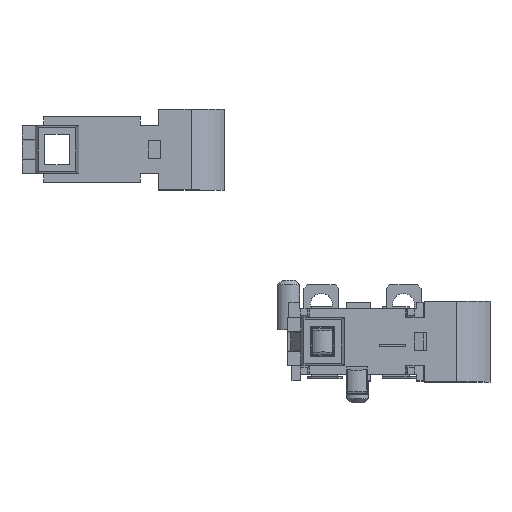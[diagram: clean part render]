
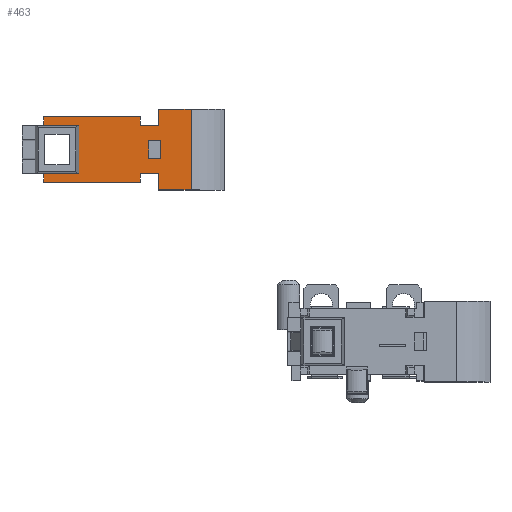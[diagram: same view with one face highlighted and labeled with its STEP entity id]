
A CAD part, top view. The second image highlights one B-rep face of the part: STEP entity #463.
In plain terms, the highlighted planar face has unit normal (0, 0, 1).
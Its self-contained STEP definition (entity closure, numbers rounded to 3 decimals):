
#463 = ADVANCED_FACE( '', ( #1064, #1065 ), #1066, .T. );
#1064 = FACE_BOUND( '', #1809, .T. );
#1065 = FACE_OUTER_BOUND( '', #1810, .T. );
#1066 = PLANE( '', #1811 );
#1809 = EDGE_LOOP( '', ( #3060, #3061, #3062, #3063 ) );
#1810 = EDGE_LOOP( '', ( #3064, #3065, #3066, #3067, #3068, #3069, #3070, #3071, #3072, #3073, #3074, #3075, #3076, #3077, #3078, #3079 ) );
#1811 = AXIS2_PLACEMENT_3D( '', #3080, #3081, #3082 );
#3060 = ORIENTED_EDGE( '', *, *, #4869, .F. );
#3061 = ORIENTED_EDGE( '', *, *, #4870, .F. );
#3062 = ORIENTED_EDGE( '', *, *, #4871, .F. );
#3063 = ORIENTED_EDGE( '', *, *, #4872, .F. );
#3064 = ORIENTED_EDGE( '', *, *, #4611, .F. );
#3065 = ORIENTED_EDGE( '', *, *, #4873, .F. );
#3066 = ORIENTED_EDGE( '', *, *, #4874, .F. );
#3067 = ORIENTED_EDGE( '', *, *, #4875, .F. );
#3068 = ORIENTED_EDGE( '', *, *, #4876, .F. );
#3069 = ORIENTED_EDGE( '', *, *, #4804, .F. );
#3070 = ORIENTED_EDGE( '', *, *, #4877, .F. );
#3071 = ORIENTED_EDGE( '', *, *, #4878, .F. );
#3072 = ORIENTED_EDGE( '', *, *, #4490, .F. );
#3073 = ORIENTED_EDGE( '', *, *, #4768, .F. );
#3074 = ORIENTED_EDGE( '', *, *, #4851, .F. );
#3075 = ORIENTED_EDGE( '', *, *, #4879, .T. );
#3076 = ORIENTED_EDGE( '', *, *, #4880, .F. );
#3077 = ORIENTED_EDGE( '', *, *, #4787, .T. );
#3078 = ORIENTED_EDGE( '', *, *, #4881, .F. );
#3079 = ORIENTED_EDGE( '', *, *, #4821, .F. );
#3080 = CARTESIAN_POINT( '', ( -15.259, 8.727, 0. ) );
#3081 = DIRECTION( '', ( 0., 0., 1. ) );
#3082 = DIRECTION( '', ( 1., 0., 0. ) );
#4490 = EDGE_CURVE( '', #5382, #5384, #5385, .T. );
#4611 = EDGE_CURVE( '', #5594, #5596, #5597, .T. );
#4768 = EDGE_CURVE( '', #5840, #5382, #5842, .T. );
#4787 = EDGE_CURVE( '', #5875, #5873, #5876, .T. );
#4804 = EDGE_CURVE( '', #5901, #5903, #5904, .T. );
#4821 = EDGE_CURVE( '', #5596, #5929, #5930, .T. );
#4851 = EDGE_CURVE( '', #5973, #5840, #5974, .T. );
#4869 = EDGE_CURVE( '', #5996, #5997, #5998, .T. );
#4870 = EDGE_CURVE( '', #5999, #5996, #6000, .T. );
#4871 = EDGE_CURVE( '', #6001, #5999, #6002, .T. );
#4872 = EDGE_CURVE( '', #5997, #6001, #6003, .T. );
#4873 = EDGE_CURVE( '', #6004, #5594, #6005, .T. );
#4874 = EDGE_CURVE( '', #6006, #6004, #6007, .T. );
#4875 = EDGE_CURVE( '', #6008, #6006, #6009, .T. );
#4876 = EDGE_CURVE( '', #5903, #6008, #6010, .T. );
#4877 = EDGE_CURVE( '', #6011, #5901, #6012, .T. );
#4878 = EDGE_CURVE( '', #5384, #6011, #6013, .T. );
#4879 = EDGE_CURVE( '', #5973, #6014, #6015, .T. );
#4880 = EDGE_CURVE( '', #5875, #6014, #6016, .T. );
#4881 = EDGE_CURVE( '', #5929, #5873, #6017, .T. );
#5382 = VERTEX_POINT( '', #6673 );
#5384 = VERTEX_POINT( '', #6676 );
#5385 = LINE( '', #6677, #6678 );
#5594 = VERTEX_POINT( '', #6988 );
#5596 = VERTEX_POINT( '', #6991 );
#5597 = LINE( '', #6992, #6993 );
#5840 = VERTEX_POINT( '', #7356 );
#5842 = LINE( '', #7359, #7360 );
#5873 = VERTEX_POINT( '', #7402 );
#5875 = VERTEX_POINT( '', #7405 );
#5876 = LINE( '', #7406, #7407 );
#5901 = VERTEX_POINT( '', #7443 );
#5903 = VERTEX_POINT( '', #7446 );
#5904 = LINE( '', #7447, #7448 );
#5929 = VERTEX_POINT( '', #7483 );
#5930 = LINE( '', #7484, #7485 );
#5973 = VERTEX_POINT( '', #7550 );
#5974 = LINE( '', #7551, #7552 );
#5996 = VERTEX_POINT( '', #7584 );
#5997 = VERTEX_POINT( '', #7585 );
#5998 = LINE( '', #7586, #7587 );
#5999 = VERTEX_POINT( '', #7588 );
#6000 = LINE( '', #7589, #7590 );
#6001 = VERTEX_POINT( '', #7591 );
#6002 = LINE( '', #7592, #7593 );
#6003 = LINE( '', #7594, #7595 );
#6004 = VERTEX_POINT( '', #7596 );
#6005 = LINE( '', #7597, #7598 );
#6006 = VERTEX_POINT( '', #7599 );
#6007 = LINE( '', #7600, #7601 );
#6008 = VERTEX_POINT( '', #7602 );
#6009 = LINE( '', #7603, #7604 );
#6010 = LINE( '', #7605, #7606 );
#6011 = VERTEX_POINT( '', #7607 );
#6012 = LINE( '', #7608, #7609 );
#6013 = LINE( '', #7610, #7611 );
#6014 = VERTEX_POINT( '', #7612 );
#6015 = LINE( '', #7613, #7614 );
#6016 = LINE( '', #7615, #7616 );
#6017 = LINE( '', #7617, #7618 );
#6673 = CARTESIAN_POINT( '', ( -9.909, 9.477, 0. ) );
#6676 = CARTESIAN_POINT( '', ( -9.909, 9.077, 0. ) );
#6677 = CARTESIAN_POINT( '', ( -9.909, 9.077, 0. ) );
#6678 = VECTOR( '', #8398, 1000. );
#6988 = CARTESIAN_POINT( '', ( -9.909, 12.077, 0. ) );
#6991 = CARTESIAN_POINT( '', ( -9.909, 11.677, 0. ) );
#6992 = CARTESIAN_POINT( '', ( -9.909, 11.677, 0. ) );
#6993 = VECTOR( '', #8504, 1000. );
#7356 = CARTESIAN_POINT( '', ( -9.059, 9.477, 0. ) );
#7359 = CARTESIAN_POINT( '', ( -9.909, 9.477, 0. ) );
#7360 = VECTOR( '', #8638, 1000. );
#7402 = CARTESIAN_POINT( '', ( -9.059, 12.427, 0. ) );
#7405 = CARTESIAN_POINT( '', ( -7.583, 12.427, 0. ) );
#7406 = CARTESIAN_POINT( '', ( -6.109, 12.427, 0. ) );
#7407 = VECTOR( '', #8657, 1000. );
#7443 = CARTESIAN_POINT( '', ( -14.309, 9.477, 0. ) );
#7446 = CARTESIAN_POINT( '', ( -12.709, 9.477, 0. ) );
#7447 = CARTESIAN_POINT( '', ( -14.709, 9.477, 0. ) );
#7448 = VECTOR( '', #8673, 1000. );
#7483 = CARTESIAN_POINT( '', ( -9.059, 11.677, 0. ) );
#7484 = CARTESIAN_POINT( '', ( -9.909, 11.677, 0. ) );
#7485 = VECTOR( '', #8693, 1000. );
#7550 = CARTESIAN_POINT( '', ( -9.059, 8.727, 0. ) );
#7551 = CARTESIAN_POINT( '', ( -9.059, 8.727, 0. ) );
#7552 = VECTOR( '', #8716, 1000. );
#7584 = CARTESIAN_POINT( '', ( -9.509, 10.977, 0. ) );
#7585 = CARTESIAN_POINT( '', ( -9.509, 10.177, 0. ) );
#7586 = CARTESIAN_POINT( '', ( -9.509, 10.977, 0. ) );
#7587 = VECTOR( '', #8730, 1000. );
#7588 = CARTESIAN_POINT( '', ( -8.959, 10.977, 0. ) );
#7589 = CARTESIAN_POINT( '', ( -8.959, 10.977, 0. ) );
#7590 = VECTOR( '', #8731, 1000. );
#7591 = CARTESIAN_POINT( '', ( -8.959, 10.177, 0. ) );
#7592 = CARTESIAN_POINT( '', ( -8.959, 10.177, 0. ) );
#7593 = VECTOR( '', #8732, 1000. );
#7594 = CARTESIAN_POINT( '', ( -9.509, 10.177, 0. ) );
#7595 = VECTOR( '', #8733, 1000. );
#7596 = CARTESIAN_POINT( '', ( -14.309, 12.077, 0. ) );
#7597 = CARTESIAN_POINT( '', ( -14.309, 12.077, 0. ) );
#7598 = VECTOR( '', #8734, 1000. );
#7599 = CARTESIAN_POINT( '', ( -14.309, 11.677, 0. ) );
#7600 = CARTESIAN_POINT( '', ( -14.309, 11.677, 0. ) );
#7601 = VECTOR( '', #8735, 1000. );
#7602 = CARTESIAN_POINT( '', ( -12.709, 11.677, 0. ) );
#7603 = CARTESIAN_POINT( '', ( -12.709, 11.677, 0. ) );
#7604 = VECTOR( '', #8736, 1000. );
#7605 = CARTESIAN_POINT( '', ( -12.709, 9.477, 0. ) );
#7606 = VECTOR( '', #8737, 1000. );
#7607 = CARTESIAN_POINT( '', ( -14.309, 9.077, 0. ) );
#7608 = CARTESIAN_POINT( '', ( -14.309, 9.077, 0. ) );
#7609 = VECTOR( '', #8738, 1000. );
#7610 = CARTESIAN_POINT( '', ( -14.309, 9.077, 0. ) );
#7611 = VECTOR( '', #8739, 1000. );
#7612 = CARTESIAN_POINT( '', ( -7.583, 8.727, 0. ) );
#7613 = CARTESIAN_POINT( '', ( -15.259, 8.727, 0. ) );
#7614 = VECTOR( '', #8740, 1000. );
#7615 = CARTESIAN_POINT( '', ( -7.583, 12.527, 0. ) );
#7616 = VECTOR( '', #8741, 1000. );
#7617 = CARTESIAN_POINT( '', ( -9.059, 11.677, 0. ) );
#7618 = VECTOR( '', #8742, 1000. );
#8398 = DIRECTION( '', ( 0., -1., 0. ) );
#8504 = DIRECTION( '', ( 0., -1., 0. ) );
#8638 = DIRECTION( '', ( -1., 0., 0. ) );
#8657 = DIRECTION( '', ( -1., 0., 0. ) );
#8673 = DIRECTION( '', ( 1., 0., 0. ) );
#8693 = DIRECTION( '', ( 1., 0., 0. ) );
#8716 = DIRECTION( '', ( 0., 1., 0. ) );
#8730 = DIRECTION( '', ( 0., -1., 0. ) );
#8731 = DIRECTION( '', ( -1., 0., 0. ) );
#8732 = DIRECTION( '', ( 0., 1., 0. ) );
#8733 = DIRECTION( '', ( 1., 0., 0. ) );
#8734 = DIRECTION( '', ( 1., 0., 0. ) );
#8735 = DIRECTION( '', ( 0., 1., 0. ) );
#8736 = DIRECTION( '', ( -1., 0., 0. ) );
#8737 = DIRECTION( '', ( 0., 1., 0. ) );
#8738 = DIRECTION( '', ( 0., 1., 0. ) );
#8739 = DIRECTION( '', ( -1., 0., 0. ) );
#8740 = DIRECTION( '', ( 1., 0., 0. ) );
#8741 = DIRECTION( '', ( 0., -1., 0. ) );
#8742 = DIRECTION( '', ( 0., 1., 0. ) );
